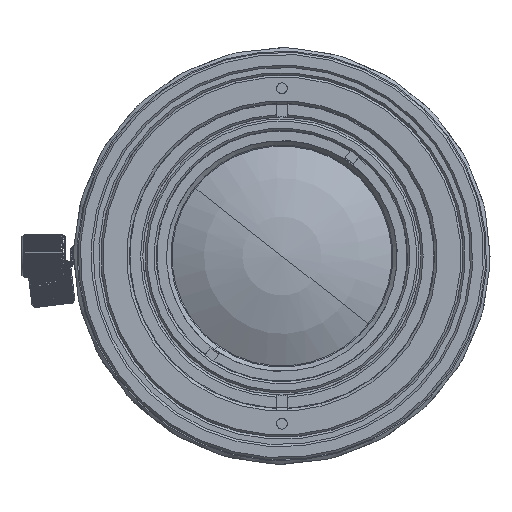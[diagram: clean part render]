
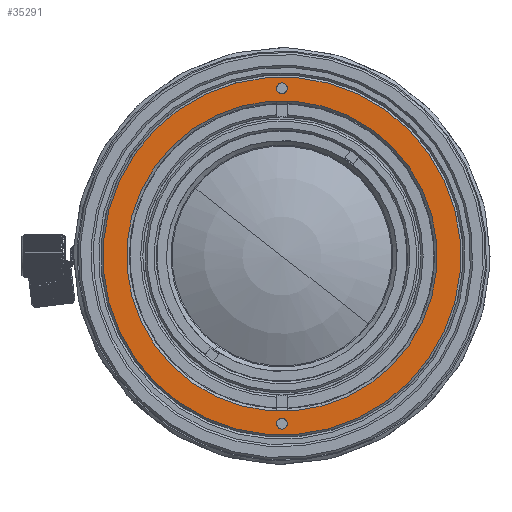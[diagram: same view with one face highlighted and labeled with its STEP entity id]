
A CAD part, left-side view. The second image highlights one B-rep face of the part: STEP entity #35291.
In plain terms, the highlighted planar face has unit normal (-1, 0, 0).
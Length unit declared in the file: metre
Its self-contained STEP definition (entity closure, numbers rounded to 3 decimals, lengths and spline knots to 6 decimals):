
#35010=CARTESIAN_POINT('',(-0.033982,0.,0.01555));
#35011=DIRECTION('',(1.,0.,0.));
#35012=DIRECTION('',(0.,0.259,0.966));
#35013=AXIS2_PLACEMENT_3D('',#35010,#35011,#35012);
#35015=CARTESIAN_POINT('',(-0.033982,0.,0.01555));
#35016=DIRECTION('',(1.,0.,0.));
#35017=DIRECTION('',(0.,-0.259,-0.966));
#35018=AXIS2_PLACEMENT_3D('',#35015,#35016,#35017);
#35020=CARTESIAN_POINT('',(-0.033982,0.,-0.01555));
#35021=DIRECTION('',(1.,0.,0.));
#35022=DIRECTION('',(0.,0.259,0.966));
#35023=AXIS2_PLACEMENT_3D('',#35020,#35021,#35022);
#35025=CARTESIAN_POINT('',(-0.033982,0.,-0.01555));
#35026=DIRECTION('',(1.,0.,0.));
#35027=DIRECTION('',(0.,-0.259,-0.966));
#35028=AXIS2_PLACEMENT_3D('',#35025,#35026,#35027);
#35030=CARTESIAN_POINT('',(-0.033982,0.,0.));
#35031=DIRECTION('',(-1.,0.,0.));
#35032=DIRECTION('',(0.,0.259,0.966));
#35033=AXIS2_PLACEMENT_3D('',#35030,#35031,#35032);
#35035=CARTESIAN_POINT('',(-0.033982,0.,0.));
#35036=DIRECTION('',(-1.,0.,0.));
#35037=DIRECTION('',(0.,-0.259,-0.966));
#35038=AXIS2_PLACEMENT_3D('',#35035,#35036,#35037);
#35040=CARTESIAN_POINT('',(-0.033982,0.,0.));
#35041=DIRECTION('',(1.,0.,0.));
#35042=DIRECTION('',(0.,0.259,0.966));
#35043=AXIS2_PLACEMENT_3D('',#35040,#35041,#35042);
#35045=CARTESIAN_POINT('',(-0.033982,0.,0.));
#35046=DIRECTION('',(1.,0.,0.));
#35047=DIRECTION('',(0.,-0.259,-0.966));
#35048=AXIS2_PLACEMENT_3D('',#35045,#35046,#35047);
#35186=CARTESIAN_POINT('',(-0.033982,-0.000129,
-0.016033));
#35187=VERTEX_POINT('',#35186);
#35188=CARTESIAN_POINT('',(-0.033982,0.000129,
-0.015067));
#35189=VERTEX_POINT('',#35188);
#35190=CARTESIAN_POINT('',(-0.033982,0.003727,
0.013909));
#35191=VERTEX_POINT('',#35190);
#35192=CARTESIAN_POINT('',(-0.033982,-0.003727,
-0.013909));
#35193=VERTEX_POINT('',#35192);
#35198=CARTESIAN_POINT('',(-0.033982,0.004296,
0.016034));
#35199=VERTEX_POINT('',#35198);
#35200=CARTESIAN_POINT('',(-0.033982,-0.004296,
-0.016034));
#35201=VERTEX_POINT('',#35200);
#35214=CARTESIAN_POINT('',(-0.033982,-0.000129,
0.015067));
#35215=VERTEX_POINT('',#35214);
#35216=CARTESIAN_POINT('',(-0.033982,0.000129,
0.016033));
#35217=VERTEX_POINT('',#35216);
#35263=CARTESIAN_POINT('',(-0.033982,0.013909,
-0.003727));
#35264=DIRECTION('',(-1.,0.,0.));
#35265=DIRECTION('',(0.,0.259,0.966));
#35266=AXIS2_PLACEMENT_3D('',#35263,#35264,#35265);
#35267=PLANE('',#35266);
#35269=ORIENTED_EDGE('',*,*,#35268,.F.);
#35271=ORIENTED_EDGE('',*,*,#35270,.F.);
#35272=EDGE_LOOP('',(#35269,#35271));
#35273=FACE_OUTER_BOUND('',#35272,.F.);
#35275=ORIENTED_EDGE('',*,*,#35274,.F.);
#35277=ORIENTED_EDGE('',*,*,#35276,.F.);
#35278=EDGE_LOOP('',(#35275,#35277));
#35279=FACE_BOUND('',#35278,.F.);
#35281=ORIENTED_EDGE('',*,*,#35280,.F.);
#35283=ORIENTED_EDGE('',*,*,#35282,.F.);
#35284=EDGE_LOOP('',(#35281,#35283));
#35285=FACE_BOUND('',#35284,.F.);
#35287=ORIENTED_EDGE('',*,*,#35286,.F.);
#35288=ORIENTED_EDGE('',*,*,#35246,.F.);
#35289=EDGE_LOOP('',(#35287,#35288));
#35290=FACE_BOUND('',#35289,.F.);
#35014=CIRCLE('',#35013,0.0005);
#35019=CIRCLE('',#35018,0.0005);
#35024=CIRCLE('',#35023,0.0005);
#35029=CIRCLE('',#35028,0.0005);
#35034=CIRCLE('',#35033,0.0166);
#35039=CIRCLE('',#35038,0.0166);
#35044=CIRCLE('',#35043,0.0144);
#35049=CIRCLE('',#35048,0.0144);
#35246=EDGE_CURVE('',#35193,#35191,#35049,.T.);
#35268=EDGE_CURVE('',#35199,#35201,#35034,.T.);
#35270=EDGE_CURVE('',#35201,#35199,#35039,.T.);
#35274=EDGE_CURVE('',#35189,#35187,#35024,.T.);
#35276=EDGE_CURVE('',#35187,#35189,#35029,.T.);
#35280=EDGE_CURVE('',#35217,#35215,#35014,.T.);
#35282=EDGE_CURVE('',#35215,#35217,#35019,.T.);
#35286=EDGE_CURVE('',#35191,#35193,#35044,.T.);
#35291=ADVANCED_FACE('',(#35273,#35279,#35285,#35290),#35267,.T.);
